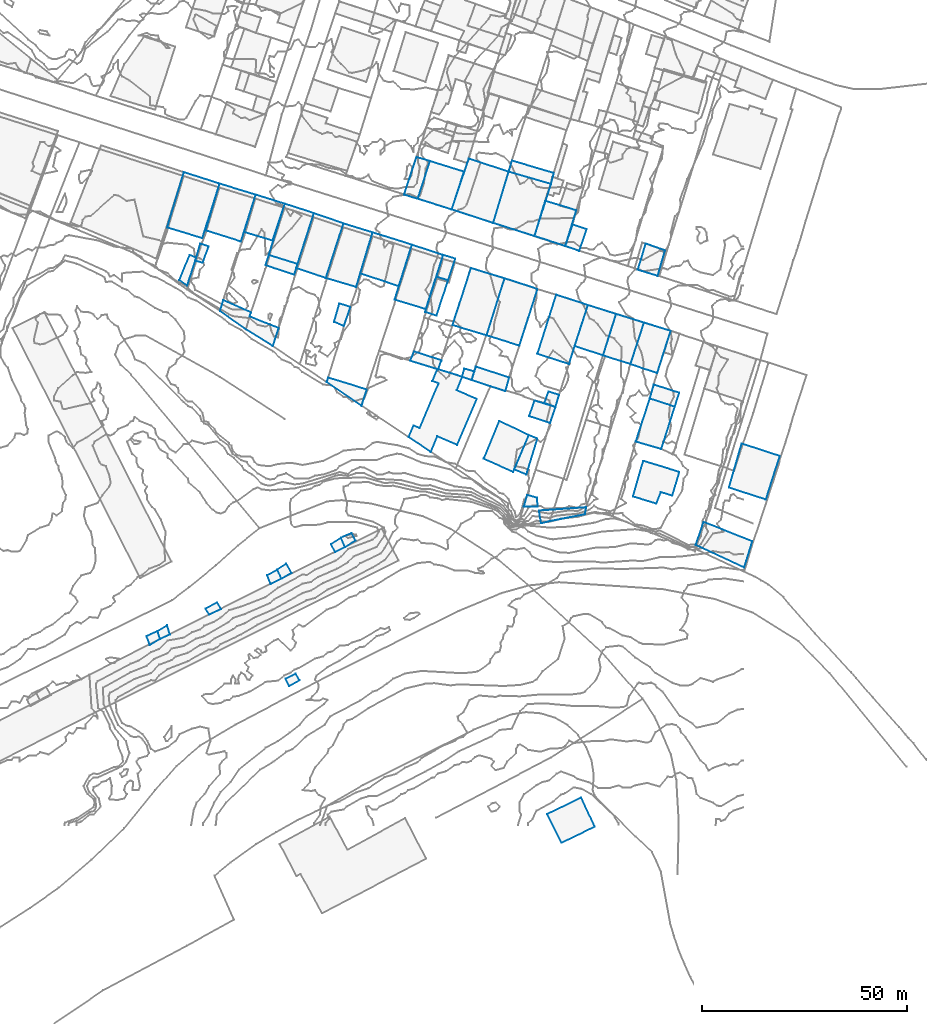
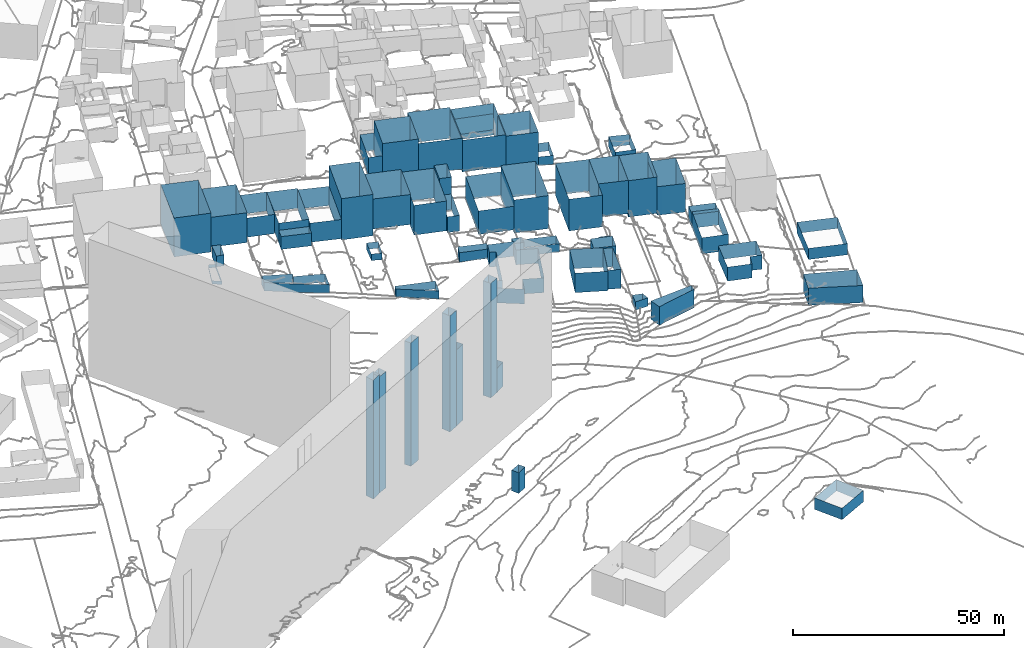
# Not in any storey, part 39 of 419: 54 walls.
"""IFC2X3 model written with IfcOpenShell, lengths in metres."""

from ifc_helpers import new_model, si_unit, frame, origin_with_axes, place, context, subcontext, project, faceted_brep, element, save


model = new_model("IFC2X3")

# Units and contexts
model_context = context("Model", 3, precision=1e-05, world=origin_with_axes())
body_context = subcontext(model_context, "Body", "Model", "MODEL_VIEW")
ifc_project = project(units=[si_unit("AREAUNIT", "SQUARE_METRE"), si_unit("LENGTHUNIT", "METRE")], contexts=[model_context])

# Walls
wall_1_placement = place(None, frame((922.9920204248, 76.0976909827, 71.5996003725), z_axis=(0.0, 0.0, 1.0), x_axis=(1.0, 0.0, 0.0)))
element("IfcWall", 1, at=wall_1_placement, Name="Mur 0", context=body_context, shape_type="Brep", body=[
    faceted_brep([(3.4, 0.0, 2.4003996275), (0.0, 0.0, 2.4003996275), (3.4, 0.0, 0.0), (0.0, 0.0, 0.0), (3.2, 2.0999999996, 2.4003996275), (3.2, 2.0999999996, 0.0), (0.7999999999, 2.7999999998, 2.4003996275), (0.7999999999, 2.7999999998, 0.0)], [[[0, 1, 2]], [[2, 1, 3]], [[4, 0, 5]], [[5, 0, 2]], [[1, 6, 3]], [[3, 6, 7]], [[6, 4, 7]], [[7, 4, 5]]]),
])
wall_2_placement = place(None, frame((845.3920204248, 143.3976909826, 76.161000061), z_axis=(0.0, 0.0, 1.0), x_axis=(1.0, 0.0, 0.0)))
element("IfcWall", 2, at=wall_2_placement, Name="Mur 0", context=body_context, shape_type="Brep", body=[
    faceted_brep([(12.2, 8.7000000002, 8.638999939), (8.6, -2.7000000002, 8.638999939), (12.2, 8.7000000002, 0.0), (8.6, -2.7000000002, 0.0), (3.3999999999, 11.4000000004, 8.638999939), (3.3999999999, 11.4000000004, 0.0), (0.0, 0.0, 8.638999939), (0.0, 0.0, 0.0)], [[[0, 1, 2]], [[2, 1, 3]], [[4, 0, 5]], [[5, 0, 2]], [[1, 6, 3]], [[3, 6, 7]], [[6, 4, 7]], [[7, 4, 5]]]),
])
wall_3_placement = place(None, frame((864.8920204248, 34.0976909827, 65.1509995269), z_axis=(0.0, 0.0, 1.0), x_axis=(1.0, 0.0, 0.0)))
element("IfcWall", 3, at=wall_3_placement, Name="Mur 0", context=body_context, shape_type="Brep", body=[
    faceted_brep([(2.5, 1.2000000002, 6.0), (3.3999999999, -0.4000000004, 6.0), (2.5, 1.2000000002, 0.0), (3.3999999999, -0.4000000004, 0.0), (0.0, 0.0, 6.0), (0.0, 0.0, 0.0), (0.8999999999, -1.7999999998, 6.0), (0.8999999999, -1.7999999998, 0.0)], [[[0, 1, 2]], [[2, 1, 3]], [[4, 0, 5]], [[5, 0, 2]], [[1, 6, 3]], [[3, 6, 7]], [[6, 4, 7]], [[7, 4, 5]]]),
])
wall_4_placement = place(None, frame((926.2920204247, 113.2976909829, 70.8120025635), z_axis=(0.0, 0.0, 1.0), x_axis=(1.0, 0.0, 0.0)))
element("IfcWall", 4, at=wall_4_placement, Name="Mur 0", context=body_context, shape_type="Brep", body=[
    faceted_brep([(4.6000000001, 14.3999999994, 9.1879974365), (12.3, 11.8999999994, 9.1879974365), (4.6000000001, 14.3999999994, 0.0), (12.3, 11.8999999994, 0.0), (0.0, 0.0, 9.1879974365), (0.0, 0.0, 0.0), (7.7000000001, -2.5, 9.1879974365), (7.7000000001, -2.5, 0.0)], [[[0, 1, 2]], [[2, 1, 3]], [[4, 0, 5]], [[5, 0, 2]], [[1, 6, 3]], [[3, 6, 7]], [[6, 4, 7]], [[7, 4, 5]]]),
])
wall_5_placement = place(None, frame((874.6920204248, 131.7976909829, 75.0439979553), z_axis=(0.0, 0.0, 1.0), x_axis=(1.0, 0.0, 0.0)))
element("IfcWall", 5, at=wall_5_placement, Name="Mur 0", context=body_context, shape_type="Brep", body=[
    faceted_brep([(7.4, -2.2000000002, 11.9560020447), (0.0, 0.0, 11.9560020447), (7.4, -2.2000000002, 0.0), (0.0, 0.0, 0.0), (11.4, 11.0999999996, 11.9560020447), (11.4, 11.0999999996, 0.0), (4.3, 13.2999999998, 11.9560020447), (4.3, 13.2999999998, 0.0)], [[[0, 1, 2]], [[2, 1, 3]], [[4, 0, 5]], [[5, 0, 2]], [[1, 6, 3]], [[3, 6, 7]], [[6, 4, 7]], [[7, 4, 5]]]),
])
wall_6_placement = place(None, frame((854.7920204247, 142.9976909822, 75.9445007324), z_axis=(0.0, 0.0, 1.0), x_axis=(1.0, 0.0, 0.0)))
element("IfcWall", 6, at=wall_6_placement, Name="Mur 0", context=body_context, shape_type="Brep", body=[
    faceted_brep([(2.8, 9.1000000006, 5.5554992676), (9.9, 6.9000000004, 5.5554992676), (2.8, 9.1000000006, 0.0), (9.9, 6.9000000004, 0.0), (0.0, 0.0, 5.5554992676), (0.0, 0.0, 0.0), (6.9, -2.0999999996, 5.5554992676), (6.9, -2.0999999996, 0.0)], [[[0, 1, 2]], [[2, 1, 3]], [[4, 0, 5]], [[5, 0, 2]], [[1, 6, 3]], [[3, 6, 7]], [[6, 4, 7]], [[7, 4, 5]]]),
])
wall_7_placement = place(None, frame((905.3920204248, 148.4976909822, 73.1300024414), z_axis=(0.0, 0.0, 1.0), x_axis=(1.0, 0.0, 0.0)))
element("IfcWall", 7, at=wall_7_placement, Name="Mur 0", context=body_context, shape_type="Brep", body=[
    faceted_brep([(0.0, 0.0, 8.9699975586), (3.7999999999, 11.3000000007, 8.9699975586), (0.0, 0.0, 0.0), (3.7999999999, 11.3000000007, 0.0), (10.1, -3.2999999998, 8.9699975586), (10.1, -3.2999999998, 0.0), (13.8999999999, 9.2000000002, 8.9699975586), (13.8999999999, 9.2000000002, 0.0), (4.2, 12.4000000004, 8.9699975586), (4.2, 12.4000000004, 0.0)], [[[0, 1, 2]], [[2, 1, 3]], [[4, 0, 5]], [[5, 0, 2]], [[6, 4, 7]], [[7, 4, 5]], [[1, 8, 3]], [[3, 8, 9]], [[8, 6, 9]], [[9, 6, 7]]]),
])
wall_8_placement = place(None, frame((878.3920204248, 68.4976909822, 69.0483990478), z_axis=(0.0, 0.0, 1.0), x_axis=(1.0, 0.0, 0.0)))
element("IfcWall", 8, at=wall_8_placement, Name="Mur 0", context=body_context, shape_type="Brep", body=[
    faceted_brep([(2.6, 1.1000000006, 6.9516009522), (3.6, -0.6999999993, 6.9516009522), (2.6, 1.1000000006, 0.0), (3.6, -0.6999999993, 0.0), (0.0, 0.0, 6.9516009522), (0.0, 0.0, 0.0), (1.0, -2.2999999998, 6.9516009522), (1.0, -2.2999999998, 0.0)], [[[0, 1, 2]], [[2, 1, 3]], [[4, 0, 5]], [[5, 0, 2]], [[1, 6, 3]], [[3, 6, 7]], [[6, 4, 7]], [[7, 4, 5]]]),
])
wall_9_placement = place(None, frame((907.8920204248, 107.6976909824, 73.5280007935), z_axis=(0.0, 0.0, 1.0), x_axis=(1.0, 0.0, 0.0)))
element("IfcWall", 9, at=wall_9_placement, Name="Mur 0", context=body_context, shape_type="Brep", body=[
    faceted_brep([(3.0, 1.2999999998, 3.4719992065), (2.3999999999, -0.7999999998, 3.4719992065), (3.0, 1.2999999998, 0.0), (2.3999999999, -0.7999999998, 0.0), (0.6, 2.0, 3.4719992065), (0.6, 2.0, 0.0), (0.0, 0.0, 3.4719992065), (0.0, 0.0, 0.0)], [[[0, 1, 2]], [[2, 1, 3]], [[4, 0, 5]], [[5, 0, 2]], [[1, 6, 3]], [[3, 6, 7]], [[6, 4, 7]], [[7, 4, 5]]]),
])
wall_10_placement = place(None, frame((833.6920204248, 45.6976909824, 69.3569992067), z_axis=(0.0, 0.0, 1.0), x_axis=(1.0, 0.0, 0.0)))
element("IfcWall", 10, at=wall_10_placement, Name="Mur 0", context=body_context, shape_type="Brep", body=[
    faceted_brep([(3.0, -0.7999999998, 33.6430007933), (0.6, -1.8999999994, 33.6430007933), (3.0, -0.7999999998, 0.0), (0.6, -1.8999999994, 0.0), (2.3, 1.4000000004, 33.6430007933), (2.3, 1.4000000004, 0.0), (0.0, 0.0, 33.6430007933), (0.0, 0.0, 0.0)], [[[0, 1, 2]], [[2, 1, 3]], [[4, 0, 5]], [[5, 0, 2]], [[1, 6, 3]], [[3, 6, 7]], [[6, 4, 7]], [[7, 4, 5]]]),
])
wall_11_placement = place(None, frame((928.6920204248, 1.0976909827, 57.486000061), z_axis=(0.0, 0.0, 1.0), x_axis=(1.0, 0.0, 0.0)))
element("IfcWall", 11, at=wall_11_placement, Name="Mur 0", context=body_context, shape_type="Brep", body=[
    faceted_brep([(8.3, 4.0, 3.313999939), (11.6, -3.1000000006, 3.313999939), (8.3, 4.0, 0.0), (11.6, -3.1000000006, 0.0), (0.0, 0.0, 3.313999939), (0.0, 0.0, 0.0), (3.5, -7.0, 3.313999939), (3.5, -7.0, 0.0)], [[[0, 1, 2]], [[2, 1, 3]], [[4, 0, 5]], [[5, 0, 2]], [[1, 6, 3]], [[3, 6, 7]], [[6, 4, 7]], [[7, 4, 5]]]),
])
wall_12_placement = place(None, frame((859.9920204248, 134.8976909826, 75.5856011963), z_axis=(0.0, 0.0, 1.0), x_axis=(1.0, 0.0, 0.0)))
element("IfcWall", 12, at=wall_12_placement, Name="Mur 0", context=body_context, shape_type="Brep", body=[
    faceted_brep([(7.7999999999, 0.2999999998, 3.7143988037), (7.5, -0.7000000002, 3.7143988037), (7.7999999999, 0.2999999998, 0.0), (7.5, -0.7000000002, 0.0), (0.7999999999, 2.5, 3.7143988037), (0.7999999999, 2.5, 0.0), (0.0, 0.0, 3.7143988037), (0.0, 0.0, 0.0), (7.0, -2.2999999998, 3.7143988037), (7.0, -2.2999999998, 0.0)], [[[0, 1, 2]], [[2, 1, 3]], [[4, 0, 5]], [[5, 0, 2]], [[6, 4, 7]], [[7, 4, 5]], [[1, 8, 3]], [[3, 8, 9]], [[8, 6, 9]], [[9, 6, 7]]]),
])
wall_13_placement = place(None, frame((910.2920204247, 106.8976909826, 73.0340019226), z_axis=(0.0, 0.0, 1.0), x_axis=(1.0, 0.0, 0.0)))
element("IfcWall", 13, at=wall_13_placement, Name="Mur 0", context=body_context, shape_type="Brep", body=[
    faceted_brep([(8.2000000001, -2.7000000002, 2.3659980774), (4.5, -1.5, 2.3659980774), (8.2000000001, -2.7000000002, 0.0), (4.5, -1.5, 0.0), (9.1000000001, 0.5999999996, 2.3659980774), (9.1000000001, 0.5999999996, 0.0), (1.0, 3.2999999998, 2.3659980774), (1.0, 3.2999999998, 0.0), (0.0, 0.0, 2.3659980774), (0.0, 0.0, 0.0)], [[[0, 1, 2]], [[2, 1, 3]], [[4, 0, 5]], [[5, 0, 2]], [[6, 4, 7]], [[7, 4, 5]], [[1, 8, 3]], [[3, 8, 9]], [[8, 6, 9]], [[9, 6, 7]]]),
])
wall_14_placement = place(None, frame((848.8920204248, 123.6976909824, 74.2920004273), z_axis=(0.0, 0.0, 1.0), x_axis=(1.0, 0.0, 0.0)))
element("IfcWall", 14, at=wall_14_placement, Name="Mur 0", context=body_context, shape_type="Brep", body=[
    faceted_brep([(12.8999999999, -8.5, 2.4079995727), (6.2999999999, -4.3999999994, 2.4079995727), (12.8999999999, -8.5, 0.0), (6.2999999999, -4.3999999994, 0.0), (14.2999999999, -4.0999999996, 2.4079995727), (14.2999999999, -4.0999999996, 0.0), (7.2, -1.2999999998, 2.4079995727), (7.2, -1.2999999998, 0.0), (7.6, -0.2999999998, 2.4079995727), (7.6, -0.2999999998, 0.0), (0.7999999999, 2.7000000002, 2.4079995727), (0.7999999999, 2.7000000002, 0.0), (0.0, 0.0, 2.4079995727), (0.0, 0.0, 0.0)], [[[0, 1, 2]], [[2, 1, 3]], [[4, 0, 5]], [[5, 0, 2]], [[6, 4, 7]], [[7, 4, 5]], [[8, 6, 9]], [[9, 6, 7]], [[10, 8, 11]], [[11, 8, 9]], [[1, 12, 3]], [[3, 12, 13]], [[12, 10, 13]], [[13, 10, 11]]]),
])
wall_15_placement = place(None, frame((838.9920204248, 131.2976909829, 75.15), z_axis=(0.0, 0.0, 1.0), x_axis=(1.0, 0.0, 0.0)))
element("IfcWall", 15, at=wall_15_placement, Name="Mur 0", context=body_context, shape_type="Brep", body=[
    faceted_brep([(4.1, 5.5, 0.95), (1.9, -1.4000000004, 0.95), (4.1, 5.5, 0.0), (1.9, -1.4000000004, 0.0), (2.5, 6.0999999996, 0.95), (2.5, 6.0999999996, 0.0), (0.0, 0.0, 0.95), (0.0, 0.0, 0.0)], [[[0, 1, 2]], [[2, 1, 3]], [[4, 0, 5]], [[5, 0, 2]], [[1, 6, 3]], [[3, 6, 7]], [[6, 4, 7]], [[7, 4, 5]]]),
])
wall_16_placement = place(None, frame((953.6920204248, 102.3976909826, 68.6312010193), z_axis=(0.0, 0.0, 1.0), x_axis=(1.0, 0.0, 0.0)))
element("IfcWall", 16, at=wall_16_placement, Name="Mur 0", context=body_context, shape_type="Brep", body=[
    faceted_brep([(0.0, 0.0, 3.9687989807), (1.0, 3.4000000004, 3.9687989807), (0.0, 0.0, 0.0), (1.0, 3.4000000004, 0.0), (6.1, -2.0, 3.9687989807), (6.1, -2.0, 0.0), (7.2000000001, 1.4000000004, 3.9687989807), (7.2000000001, 1.4000000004, 0.0)], [[[0, 1, 2]], [[2, 1, 3]], [[4, 0, 5]], [[5, 0, 2]], [[1, 6, 3]], [[3, 6, 7]], [[6, 4, 7]], [[7, 4, 5]]]),
])
wall_17_placement = place(None, frame((901.6920204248, 132.0976909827, 73.565098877), z_axis=(0.0, 0.0, 1.0), x_axis=(1.0, 0.0, 0.0)))
element("IfcWall", 17, at=wall_17_placement, Name="Mur 0", context=body_context, shape_type="Brep", body=[
    faceted_brep([(1.6, 5.2999999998, 9.634901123), (4.6, 4.3999999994, 9.634901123), (1.6, 5.2999999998, 0.0), (4.6, 4.3999999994, 0.0), (0.0, 0.0, 9.634901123), (0.0, 0.0, 0.0), (2.8, -0.9000000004, 9.634901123), (2.8, -0.9000000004, 0.0)], [[[0, 1, 2]], [[2, 1, 3]], [[4, 0, 5]], [[5, 0, 2]], [[1, 6, 3]], [[3, 6, 7]], [[6, 4, 7]], [[7, 4, 5]]]),
])
wall_18_placement = place(None, frame((874.8920204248, 106.3976909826, 73.9040000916), z_axis=(0.0, 0.0, 1.0), x_axis=(1.0, 0.0, 0.0)))
element("IfcWall", 18, at=wall_18_placement, Name="Mur 0", context=body_context, shape_type="Brep", body=[
    faceted_brep([(9.7999999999, -1.7999999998, 2.2959999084), (8.5, -5.7999999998, 2.2959999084), (9.7999999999, -1.7999999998, 0.0), (8.5, -5.7999999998, 0.0), (0.3999999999, 1.0999999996, 2.2959999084), (0.3999999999, 1.0999999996, 0.0), (0.0, 0.0, 2.2959999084), (0.0, 0.0, 0.0)], [[[0, 1, 2]], [[2, 1, 3]], [[4, 0, 5]], [[5, 0, 2]], [[1, 6, 3]], [[3, 6, 7]], [[6, 4, 7]], [[7, 4, 5]]]),
])
wall_19_placement = place(None, frame((845.3920204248, 51.1976909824, 69.2899986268), z_axis=(0.0, 0.0, 1.0), x_axis=(1.0, 0.0, 0.0)))
element("IfcWall", 19, at=wall_19_placement, Name="Mur 0", context=body_context, shape_type="Brep", body=[
    faceted_brep([(2.7999999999, 1.5, 35.7100013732), (3.7999999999, -0.0999999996, 35.7100013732), (2.7999999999, 1.5, 0.0), (3.7999999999, -0.0999999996, 0.0), (0.0, 0.0, 35.7100013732), (0.0, 0.0, 0.0), (0.8999999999, -1.5, 35.7100013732), (0.8999999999, -1.5, 0.0)], [[[0, 1, 2]], [[2, 1, 3]], [[4, 0, 5]], [[5, 0, 2]], [[1, 6, 3]], [[3, 6, 7]], [[6, 4, 7]], [[7, 4, 5]]]),
])
wall_20_placement = place(None, frame((883.0920204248, 132.8976909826, 74.5310005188), z_axis=(0.0, 0.0, 1.0), x_axis=(1.0, 0.0, 0.0)))
element("IfcWall", 20, at=wall_20_placement, Name="Mur 0", context=body_context, shape_type="Brep", body=[
    faceted_brep([(3.0, 10.0, 8.6689994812), (12.6, 7.0, 8.6689994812), (3.0, 10.0, 0.0), (12.6, 7.0, 0.0), (0.0, 0.0, 8.6689994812), (0.0, 0.0, 0.0), (9.4, -3.0999999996, 8.6689994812), (9.4, -3.0999999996, 0.0)], [[[0, 1, 2]], [[2, 1, 3]], [[4, 0, 5]], [[5, 0, 2]], [[1, 6, 3]], [[3, 6, 7]], [[6, 4, 7]], [[7, 4, 5]]]),
])
wall_21_placement = place(None, frame((925.5920204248, 141.9976909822, 71.6450004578), z_axis=(0.0, 0.0, 1.0), x_axis=(1.0, 0.0, 0.0)))
element("IfcWall", 21, at=wall_21_placement, Name="Mur 0", context=body_context, shape_type="Brep", body=[
    faceted_brep([(7.5, -2.3999999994, 9.4549995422), (0.0, 0.0, 9.4549995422), (7.5, -2.3999999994, 0.0), (0.0, 0.0, 0.0), (10.2, 6.3000000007, 9.4549995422), (10.2, 6.3000000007, 0.0), (2.6, 8.6000000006, 9.4549995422), (2.6, 8.6000000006, 0.0)], [[[0, 1, 2]], [[2, 1, 3]], [[4, 0, 5]], [[5, 0, 2]], [[1, 6, 3]], [[3, 6, 7]], [[6, 4, 7]], [[7, 4, 5]]]),
])
wall_22_placement = place(None, frame((913.1920204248, 87.6976909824, 73.0757994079), z_axis=(0.0, 0.0, 1.0), x_axis=(1.0, 0.0, 0.0)))
element("IfcWall", 22, at=wall_22_placement, Name="Mur 0", context=body_context, shape_type="Brep", body=[
    faceted_brep([(3.8, 9.2000000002, 5.6242005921), (11.0, 5.7999999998, 5.6242005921), (3.8, 9.2000000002, 0.0), (11.0, 5.7999999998, 0.0), (0.0, 0.0, 5.6242005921), (0.0, 0.0, 0.0), (7.2000000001, -3.2000000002, 5.6242005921), (7.2000000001, -3.2000000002, 0.0)], [[[0, 1, 2]], [[2, 1, 3]], [[4, 0, 5]], [[5, 0, 2]], [[1, 6, 3]], [[3, 6, 7]], [[6, 4, 7]], [[7, 4, 5]]]),
])
wall_23_placement = place(None, frame((876.6920204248, 121.0976909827, 74.9028998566), z_axis=(0.0, 0.0, 1.0), x_axis=(1.0, 0.0, 0.0)))
element("IfcWall", 23, at=wall_23_placement, Name="Mur 0", context=body_context, shape_type="Brep", body=[
    faceted_brep([(4.0, 3.5999999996, 1.8971001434), (2.4, -1.0, 1.8971001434), (4.0, 3.5999999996, 0.0), (2.4, -1.0, 0.0), (1.3, 4.5, 1.8971001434), (1.3, 4.5, 0.0), (0.0, 0.0, 1.8971001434), (0.0, 0.0, 0.0)], [[[0, 1, 2]], [[2, 1, 3]], [[4, 0, 5]], [[5, 0, 2]], [[1, 6, 3]], [[3, 6, 7]], [[6, 4, 7]], [[7, 4, 5]]]),
])
wall_24_placement = place(None, frame((862.8920204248, 60.6976909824, 69.4219978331), z_axis=(0.0, 0.0, 1.0), x_axis=(1.0, 0.0, 0.0)))
element("IfcWall", 24, at=wall_24_placement, Name="Mur 0", context=body_context, shape_type="Brep", body=[
    faceted_brep([(3.5, -0.7999999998, 22.0780021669), (1.0, -2.2000000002, 22.0780021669), (3.5, -0.7999999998, 0.0), (1.0, -2.2000000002, 0.0), (2.2, 1.5, 22.0780021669), (2.2, 1.5, 0.0), (0.0, 0.0, 22.0780021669), (0.0, 0.0, 0.0)], [[[0, 1, 2]], [[2, 1, 3]], [[4, 0, 5]], [[5, 0, 2]], [[1, 6, 3]], [[3, 6, 7]], [[6, 4, 7]], [[7, 4, 5]]]),
])
wall_25_placement = place(None, frame((830.9920204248, 44.4976909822, 69.3569992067), z_axis=(0.0, 0.0, 1.0), x_axis=(1.0, 0.0, 0.0)))
element("IfcWall", 25, at=wall_25_placement, Name="Mur 0", context=body_context, shape_type="Brep", body=[
    faceted_brep([(2.7, 1.2000000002, 34.3430007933), (3.2999999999, -0.6999999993, 34.3430007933), (2.7, 1.2000000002, 0.0), (3.2999999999, -0.6999999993, 0.0), (0.0, 0.0, 34.3430007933), (0.0, 0.0, 0.0), (0.7999999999, -2.1999999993, 34.3430007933), (0.7999999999, -2.1999999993, 0.0)], [[[0, 1, 2]], [[2, 1, 3]], [[4, 0, 5]], [[5, 0, 2]], [[1, 6, 3]], [[3, 6, 7]], [[6, 4, 7]], [[7, 4, 5]]]),
])
wall_26_placement = place(None, frame((927.9920204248, 101.2976909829, 72.4149993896), z_axis=(0.0, 0.0, 1.0), x_axis=(1.0, 0.0, 0.0)))
element("IfcWall", 26, at=wall_26_placement, Name="Mur 0", context=body_context, shape_type="Brep", body=[
    faceted_brep([(1.0, 2.7999999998, 1.2850006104), (3.6, 2.0, 1.2850006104), (1.0, 2.7999999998, 0.0), (3.6, 2.0, 0.0), (0.0, 0.0, 1.2850006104), (0.0, 0.0, 0.0), (2.7, -1.0, 1.2850006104), (2.7, -1.0, 0.0)], [[[0, 1, 2]], [[2, 1, 3]], [[4, 0, 5]], [[5, 0, 2]], [[1, 6, 3]], [[3, 6, 7]], [[6, 4, 7]], [[7, 4, 5]]]),
])
wall_27_placement = place(None, frame((875.9920204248, 66.8976909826, 69.0483990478), z_axis=(0.0, 0.0, 1.0), x_axis=(1.0, 0.0, 0.0)))
element("IfcWall", 27, at=wall_27_placement, Name="Mur 0", context=body_context, shape_type="Brep", body=[
    faceted_brep([(2.4, 1.5999999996, 33.1516009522), (3.4, -0.7000000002, 33.1516009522), (2.4, 1.5999999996, 0.0), (3.4, -0.7000000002, 0.0), (0.0, 0.0, 33.1516009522), (0.0, 0.0, 0.0), (1.0, -1.9000000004, 33.1516009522), (1.0, -1.9000000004, 0.0)], [[[0, 1, 2]], [[2, 1, 3]], [[4, 0, 5]], [[5, 0, 2]], [[1, 6, 3]], [[3, 6, 7]], [[6, 4, 7]], [[7, 4, 5]]]),
])
wall_28_placement = place(None, frame((842.8920204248, 135.9976909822, 75.8583978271), z_axis=(0.0, 0.0, 1.0), x_axis=(1.0, 0.0, 0.0)))
element("IfcWall", 28, at=wall_28_placement, Name="Mur 0", context=body_context, shape_type="Brep", body=[
    faceted_brep([(0.0, 0.0, 3.1416021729), (0.2, 0.8000000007, 3.1416021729), (0.0, 0.0, 0.0), (0.2, 0.8000000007, 0.0), (1.7999999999, -0.5, 3.1416021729), (1.7999999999, -0.5, 0.0), (3.2, 3.5, 3.1416021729), (3.2, 3.5, 0.0), (1.2, 4.2000000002, 3.1416021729), (1.2, 4.2000000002, 0.0)], [[[0, 1, 2]], [[2, 1, 3]], [[4, 0, 5]], [[5, 0, 2]], [[6, 4, 7]], [[7, 4, 5]], [[1, 8, 3]], [[3, 8, 9]], [[8, 6, 9]], [[9, 6, 7]]]),
])
wall_29_placement = place(None, frame((924.2920204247, 98.0976909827, 72.6780975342), z_axis=(0.0, 0.0, 1.0), x_axis=(1.0, 0.0, 0.0)))
element("IfcWall", 29, at=wall_29_placement, Name="Mur 0", context=body_context, shape_type="Brep", body=[
    faceted_brep([(1.3, 3.7999999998, 3.0219024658), (6.4, 2.2000000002, 3.0219024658), (1.3, 3.7999999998, 0.0), (6.4, 2.2000000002, 0.0), (0.0, 0.0, 3.0219024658), (0.0, 0.0, 0.0), (5.1000000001, -1.7000000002, 3.0219024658), (5.1000000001, -1.7000000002, 0.0)], [[[0, 1, 2]], [[2, 1, 3]], [[4, 0, 5]], [[5, 0, 2]], [[1, 6, 3]], [[3, 6, 7]], [[6, 4, 7]], [[7, 4, 5]]]),
])
wall_30_placement = place(None, frame((972.9920204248, 80.6976909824, 65.9680023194), z_axis=(0.0, 0.0, 1.0), x_axis=(1.0, 0.0, 0.0)))
element("IfcWall", 30, at=wall_30_placement, Name="Mur 0", context=body_context, shape_type="Brep", body=[
    faceted_brep([(12.4, 7.7000000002, 3.2319976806), (9.0, -2.8999999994, 3.2319976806), (12.4, 7.7000000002, 0.0), (9.0, -2.8999999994, 0.0), (3.1, 10.7000000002, 3.2319976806), (3.1, 10.7000000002, 0.0), (0.0, 0.0, 3.2319976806), (0.0, 0.0, 0.0)], [[[0, 1, 2]], [[2, 1, 3]], [[4, 0, 5]], [[5, 0, 2]], [[1, 6, 3]], [[3, 6, 7]], [[6, 4, 7]], [[7, 4, 5]]]),
])
wall_31_placement = place(None, frame((895.2920204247, 111.5976909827, 73.6999996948), z_axis=(0.0, 0.0, 1.0), x_axis=(1.0, 0.0, 0.0)))
element("IfcWall", 31, at=wall_31_placement, Name="Mur 0", context=body_context, shape_type="Brep", body=[
    faceted_brep([(7.6000000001, 0.0999999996, 2.7000003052), (6.8, -2.1000000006, 2.7000003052), (7.6000000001, 0.0999999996, 0.0), (6.8, -2.1000000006, 0.0), (0.9, 2.2999999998, 2.7000003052), (0.9, 2.2999999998, 0.0), (0.0, 0.0, 2.7000003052), (0.0, 0.0, 0.0)], [[[0, 1, 2]], [[2, 1, 3]], [[4, 0, 5]], [[5, 0, 2]], [[1, 6, 3]], [[3, 6, 7]], [[6, 4, 7]], [[7, 4, 5]]]),
])
wall_32_placement = place(None, frame((893.7920204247, 152.0976909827, 74.7480007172), z_axis=(0.0, 0.0, 1.0), x_axis=(1.0, 0.0, 0.0)))
element("IfcWall", 32, at=wall_32_placement, Name="Mur 0", context=body_context, shape_type="Brep", body=[
    faceted_brep([(0.0, 0.0, 5.1519992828), (3.0, 9.2000000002, 5.1519992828), (0.0, 0.0, 0.0), (3.0, 9.2000000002, 0.0), (3.3, -1.0, 5.1519992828), (3.3, -1.0, 0.0), (6.3, 8.2000000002, 5.1519992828), (6.3, 8.2000000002, 0.0)], [[[0, 1, 2]], [[2, 1, 3]], [[4, 0, 5]], [[5, 0, 2]], [[1, 6, 3]], [[3, 6, 7]], [[6, 4, 7]], [[7, 4, 5]]]),
])
wall_33_placement = place(None, frame((964.8920204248, 66.6976909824, 64.0479988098), z_axis=(0.0, 0.0, 1.0), x_axis=(1.0, 0.0, 0.0)))
element("IfcWall", 33, at=wall_33_placement, Name="Mur 0", context=body_context, shape_type="Brep", body=[
    faceted_brep([(13.7999999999, 0.9000000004, 4.9520011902), (12.2999999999, -3.8999999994, 4.9520011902), (13.7999999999, 0.9000000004, 0.0), (12.2999999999, -3.8999999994, 0.0), (1.8999999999, 5.6000000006, 4.9520011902), (1.8999999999, 5.6000000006, 0.0), (0.0, 0.0, 4.9520011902), (0.0, 0.0, 0.0), (11.7999999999, -5.5, 4.9520011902), (11.7999999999, -5.5, 0.0)], [[[0, 1, 2]], [[2, 1, 3]], [[4, 0, 5]], [[5, 0, 2]], [[6, 4, 7]], [[7, 4, 5]], [[1, 8, 3]], [[3, 8, 9]], [[8, 6, 9]], [[9, 6, 7]]]),
])
wall_34_placement = place(None, frame((949.5920204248, 78.4976909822, 69.2433996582), z_axis=(0.0, 0.0, 1.0), x_axis=(1.0, 0.0, 0.0)))
element("IfcWall", 34, at=wall_34_placement, Name="Mur 0", context=body_context, shape_type="Brep", body=[
    faceted_brep([(0.0, 0.0, 4.0566003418), (2.5, 8.7000000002, 4.0566003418), (0.0, 0.0, 0.0), (2.5, 8.7000000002, 0.0), (5.7, -1.6999999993, 4.0566003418), (5.7, -1.6999999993, 0.0), (6.8, 1.1000000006, 4.0566003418), (6.8, 1.1000000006, 0.0), (9.6, 0.2000000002, 4.0566003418), (9.6, 0.2000000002, 0.0), (11.3, 6.0, 4.0566003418), (11.3, 6.0, 0.0)], [[[0, 1, 2]], [[2, 1, 3]], [[4, 0, 5]], [[5, 0, 2]], [[6, 4, 7]], [[7, 4, 5]], [[8, 6, 9]], [[9, 6, 7]], [[1, 10, 3]], [[3, 10, 11]], [[10, 8, 11]], [[11, 8, 9]]]),
])
wall_35_placement = place(None, frame((948.9920204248, 110.7976909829, 68.9369995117), z_axis=(0.0, 0.0, 1.0), x_axis=(1.0, 0.0, 0.0)))
element("IfcWall", 35, at=wall_35_placement, Name="Mur 0", context=body_context, shape_type="Brep", body=[
    faceted_brep([(6.5, -2.2000000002, 8.2630004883), (1.1, -0.4000000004, 8.2630004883), (6.5, -2.2000000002, 0.0), (1.1, -0.4000000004, 0.0), (9.7999999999, 8.0999999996, 8.2630004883), (9.7999999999, 8.0999999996, 0.0), (3.2999999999, 10.0999999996, 8.2630004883), (3.2999999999, 10.0999999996, 0.0), (0.0, 0.0, 8.2630004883), (0.0, 0.0, 0.0)], [[[0, 1, 2]], [[2, 1, 3]], [[4, 0, 5]], [[5, 0, 2]], [[6, 4, 7]], [[7, 4, 5]], [[1, 8, 3]], [[3, 8, 9]], [[8, 6, 9]], [[9, 6, 7]]]),
])
wall_36_placement = place(None, frame((950.2920204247, 91.8976909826, 68.7280014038), z_axis=(0.0, 0.0, 1.0), x_axis=(1.0, 0.0, 0.0)))
element("IfcWall", 36, at=wall_36_placement, Name="Mur 0", context=body_context, shape_type="Brep", body=[
    faceted_brep([(9.5, 8.5, 4.6719985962), (6.2000000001, -1.7999999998, 4.6719985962), (9.5, 8.5, 0.0), (6.2000000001, -1.7999999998, 0.0), (3.4, 10.5, 4.6719985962), (3.4, 10.5, 0.0), (0.0, 0.0, 4.6719985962), (0.0, 0.0, 0.0)], [[[0, 1, 2]], [[2, 1, 3]], [[4, 0, 5]], [[5, 0, 2]], [[1, 6, 3]], [[3, 6, 7]], [[6, 4, 7]], [[7, 4, 5]]]),
])
wall_37_placement = place(None, frame((950.7920204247, 133.7976909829, 69.5340026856), z_axis=(0.0, 0.0, 1.0), x_axis=(1.0, 0.0, 0.0)))
element("IfcWall", 37, at=wall_37_placement, Name="Mur 0", context=body_context, shape_type="Brep", body=[
    faceted_brep([(4.8, -1.5, 3.0659973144), (0.0, 0.0, 3.0659973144), (4.8, -1.5, 0.0), (0.0, 0.0, 0.0), (6.6000000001, 4.6999999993, 3.0659973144), (6.6000000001, 4.6999999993, 0.0), (1.9, 6.3999999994, 3.0659973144), (1.9, 6.3999999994, 0.0)], [[[0, 1, 2]], [[2, 1, 3]], [[4, 0, 5]], [[5, 0, 2]], [[1, 6, 3]], [[3, 6, 7]], [[6, 4, 7]], [[7, 4, 5]]]),
])
wall_38_placement = place(None, frame((919.2920204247, 157.6976909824, 73.8568984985), z_axis=(0.0, 0.0, 1.0), x_axis=(1.0, 0.0, 0.0)))
element("IfcWall", 38, at=wall_38_placement, Name="Mur 0", context=body_context, shape_type="Brep", body=[
    faceted_brep([(10.3, -3.0, 4.6431015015), (0.0, 0.0, 4.6431015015), (10.3, -3.0, 0.0), (0.0, 0.0, 0.0), (11.0, -0.2999999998, 4.6431015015), (11.0, -0.2999999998, 0.0), (0.8, 2.7000000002, 4.6431015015), (0.8, 2.7000000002, 0.0)], [[[0, 1, 2]], [[2, 1, 3]], [[4, 0, 5]], [[5, 0, 2]], [[1, 6, 3]], [[3, 6, 7]], [[6, 4, 7]], [[7, 4, 5]]]),
])
wall_39_placement = place(None, frame((860.3920204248, 59.2976909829, 69.4219978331), z_axis=(0.0, 0.0, 1.0), x_axis=(1.0, 0.0, 0.0)))
element("IfcWall", 39, at=wall_39_placement, Name="Mur 0", context=body_context, shape_type="Brep", body=[
    faceted_brep([(2.5, 1.3999999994, 33.5780021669), (3.5, -0.8000000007, 33.5780021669), (2.5, 1.3999999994, 0.0), (3.5, -0.8000000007, 0.0), (0.0, 0.0, 33.5780021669), (0.0, 0.0, 0.0), (0.8999999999, -2.1000000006, 33.5780021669), (0.8999999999, -2.1000000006, 0.0)], [[[0, 1, 2]], [[2, 1, 3]], [[4, 0, 5]], [[5, 0, 2]], [[1, 6, 3]], [[3, 6, 7]], [[6, 4, 7]], [[7, 4, 5]]]),
])
wall_40_placement = place(None, frame((920.5920204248, 85.0976909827, 73.0299987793), z_axis=(0.0, 0.0, 1.0), x_axis=(1.0, 0.0, 0.0)))
element("IfcWall", 40, at=wall_40_placement, Name="Mur 0", context=body_context, shape_type="Brep", body=[
    faceted_brep([(3.6, 8.3999999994, 5.4700012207), (5.7, 7.5, 5.4700012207), (3.6, 8.3999999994, 0.0), (5.7, 7.5, 0.0), (0.0, 0.0, 5.4700012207), (0.0, 0.0, 0.0), (3.0, -1.2000000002, 5.4700012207), (3.0, -1.2000000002, 0.0)], [[[0, 1, 2]], [[2, 1, 3]], [[4, 0, 5]], [[5, 0, 2]], [[1, 6, 3]], [[3, 6, 7]], [[6, 4, 7]], [[7, 4, 5]]]),
])
wall_41_placement = place(None, frame((898.8920204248, 123.4976909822, 73.7474008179), z_axis=(0.0, 0.0, 1.0), x_axis=(1.0, 0.0, 0.0)))
element("IfcWall", 41, at=wall_41_placement, Name="Mur 0", context=body_context, shape_type="Brep", body=[
    faceted_brep([(2.7999999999, -0.8999999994, 4.5525991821), (0.0, 0.0, 4.5525991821), (2.7999999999, -0.8999999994, 0.0), (0.0, 0.0, 0.0), (5.6, 7.7000000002, 4.5525991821), (5.6, 7.7000000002, 0.0), (2.7999999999, 8.6000000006, 4.5525991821), (2.7999999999, 8.6000000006, 0.0)], [[[0, 1, 2]], [[2, 1, 3]], [[4, 0, 5]], [[5, 0, 2]], [[1, 6, 3]], [[3, 6, 7]], [[6, 4, 7]], [[7, 4, 5]]]),
])
wall_42_placement = place(None, frame((913.8920204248, 117.7976909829, 71.851099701), z_axis=(0.0, 0.0, 1.0), x_axis=(1.0, 0.0, 0.0)))
element("IfcWall", 42, at=wall_42_placement, Name="Mur 0", context=body_context, shape_type="Brep", body=[
    faceted_brep([(4.3999999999, 13.8999999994, 9.548900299), (12.3999999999, 11.2999999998, 9.548900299), (4.3999999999, 13.8999999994, 0.0), (12.3999999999, 11.2999999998, 0.0), (0.0, 0.0, 9.548900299), (0.0, 0.0, 0.0), (8.0, -2.5, 9.548900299), (8.0, -2.5, 0.0)], [[[0, 1, 2]], [[2, 1, 3]], [[4, 0, 5]], [[5, 0, 2]], [[1, 6, 3]], [[3, 6, 7]], [[6, 4, 7]], [[7, 4, 5]]]),
])
wall_43_placement = place(None, frame((905.5920204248, 120.2976909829, 72.7897001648), z_axis=(0.0, 0.0, 1.0), x_axis=(1.0, 0.0, 0.0)))
element("IfcWall", 43, at=wall_43_placement, Name="Mur 0", context=body_context, shape_type="Brep", body=[
    faceted_brep([(4.5, 13.8999999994, 6.8102998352), (12.7, 11.3999999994, 6.8102998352), (4.5, 13.8999999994, 0.0), (12.7, 11.3999999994, 0.0), (0.0, 0.0, 6.8102998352), (0.0, 0.0, 0.0), (8.3, -2.5, 6.8102998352), (8.3, -2.5, 0.0)], [[[0, 1, 2]], [[2, 1, 3]], [[4, 0, 5]], [[5, 0, 2]], [[1, 6, 3]], [[3, 6, 7]], [[6, 4, 7]], [[7, 4, 5]]]),
])
wall_44_placement = place(None, frame((894.8920204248, 92.9976909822, 73.3090026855), z_axis=(0.0, 0.0, 1.0), x_axis=(1.0, 0.0, 0.0)))
element("IfcWall", 44, at=wall_44_placement, Name="Mur 0", context=body_context, shape_type="Brep", body=[
    faceted_brep([(5.7999999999, 13.7000000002, 4.2909973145), (7.0, 16.6000000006, 4.2909973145), (5.7999999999, 13.7000000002, 0.0), (7.0, 16.6000000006, 0.0), (7.2999999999, 13.1000000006, 4.2909973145), (7.2999999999, 13.1000000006, 0.0), (2.7, 2.2000000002, 4.2909973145), (2.7, 2.2000000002, 0.0), (1.2, 2.8000000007, 4.2909973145), (1.2, 2.8000000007, 0.0), (0.0, 0.0, 4.2909973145), (0.0, 0.0, 0.0), (5.3999999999, -3.5999999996, 4.2909973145), (5.3999999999, -3.5999999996, 0.0), (7.0, 0.2000000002, 4.2909973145), (7.0, 0.2000000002, 0.0), (11.7999999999, -1.8999999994, 4.2909973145), (11.7999999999, -1.8999999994, 0.0), (16.6, 9.3000000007, 4.2909973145), (16.6, 9.3000000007, 0.0), (11.7, 11.4000000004, 4.2909973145), (11.7, 11.4000000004, 0.0), (13.1, 14.7000000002, 4.2909973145), (13.1, 14.7000000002, 0.0)], [[[0, 1, 2]], [[2, 1, 3]], [[4, 0, 5]], [[5, 0, 2]], [[6, 4, 7]], [[7, 4, 5]], [[8, 6, 9]], [[9, 6, 7]], [[10, 8, 11]], [[11, 8, 9]], [[12, 10, 13]], [[13, 10, 11]], [[14, 12, 15]], [[15, 12, 13]], [[16, 14, 17]], [[17, 14, 15]], [[18, 16, 19]], [[19, 16, 17]], [[20, 18, 21]], [[21, 18, 19]], [[1, 22, 3]], [[3, 22, 23]], [[22, 20, 23]], [[23, 20, 21]]]),
])
wall_45_placement = place(None, frame((891.4920204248, 126.4976909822, 73.7870010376), z_axis=(0.0, 0.0, 1.0), x_axis=(1.0, 0.0, 0.0)))
element("IfcWall", 45, at=wall_45_placement, Name="Mur 0", context=body_context, shape_type="Brep", body=[
    faceted_brep([(7.6, -2.2999999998, 8.6129989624), (0.0, 0.0, 8.6129989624), (7.6, -2.2999999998, 0.0), (0.0, 0.0, 0.0), (11.7999999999, 10.9000000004, 8.6129989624), (11.7999999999, 10.9000000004, 0.0), (4.2, 13.4000000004, 8.6129989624), (4.2, 13.4000000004, 0.0)], [[[0, 1, 2]], [[2, 1, 3]], [[4, 0, 5]], [[5, 0, 2]], [[1, 6, 3]], [[3, 6, 7]], [[6, 4, 7]], [[7, 4, 5]]]),
])
wall_46_placement = place(None, frame((867.4920204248, 134.1976909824, 75.4461991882), z_axis=(0.0, 0.0, 1.0), x_axis=(1.0, 0.0, 0.0)))
element("IfcWall", 46, at=wall_46_placement, Name="Mur 0", context=body_context, shape_type="Brep", body=[
    faceted_brep([(11.5, 10.9000000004, 5.5538008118), (7.2, -2.3999999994, 5.5538008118), (11.5, 10.9000000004, 0.0), (7.2, -2.3999999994, 0.0), (4.2999999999, 13.4000000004, 5.5538008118), (4.2999999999, 13.4000000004, 0.0), (0.0, 0.0, 5.5538008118), (0.0, 0.0, 0.0)], [[[0, 1, 2]], [[2, 1, 3]], [[4, 0, 5]], [[5, 0, 2]], [[1, 6, 3]], [[3, 6, 7]], [[6, 4, 7]], [[7, 4, 5]]]),
])
wall_47_placement = place(None, frame((860.7920204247, 137.3976909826, 75.6688024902), z_axis=(0.0, 0.0, 1.0), x_axis=(1.0, 0.0, 0.0)))
element("IfcWall", 47, at=wall_47_placement, Name="Mur 0", context=body_context, shape_type="Brep", body=[
    faceted_brep([(3.9, 12.5, 5.7311975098), (11.0, 10.2000000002, 5.7311975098), (3.9, 12.5, 0.0), (11.0, 10.2000000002, 0.0), (0.0, 0.0, 5.7311975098), (0.0, 0.0, 0.0), (7.0, -2.2000000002, 5.7311975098), (7.0, -2.2000000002, 0.0)], [[[0, 1, 2]], [[2, 1, 3]], [[4, 0, 5]], [[5, 0, 2]], [[1, 6, 3]], [[3, 6, 7]], [[6, 4, 7]], [[7, 4, 5]]]),
])
wall_48_placement = place(None, frame((835.9920204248, 144.0976909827, 76.2324005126), z_axis=(0.0, 0.0, 1.0), x_axis=(1.0, 0.0, 0.0)))
element("IfcWall", 48, at=wall_48_placement, Name="Mur 0", context=body_context, shape_type="Brep", body=[
    faceted_brep([(8.6, -2.6000000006, 11.2675994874), (0.0, 0.0, 11.2675994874), (8.6, -2.6000000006, 0.0), (0.0, 0.0, 0.0), (12.7999999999, 10.7000000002, 11.2675994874), (12.7999999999, 10.7000000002, 0.0), (4.1, 13.5, 11.2675994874), (4.1, 13.5, 0.0)], [[[0, 1, 2]], [[2, 1, 3]], [[4, 0, 5]], [[5, 0, 2]], [[1, 6, 3]], [[3, 6, 7]], [[6, 4, 7]], [[7, 4, 5]]]),
])
wall_49_placement = place(None, frame((915.4920204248, 145.1976909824, 72.3500030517), z_axis=(0.0, 0.0, 1.0), x_axis=(1.0, 0.0, 0.0)))
element("IfcWall", 49, at=wall_49_placement, Name="Mur 0", context=body_context, shape_type="Brep", body=[
    faceted_brep([(0.0, 0.0, 9.1499969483), (3.7999999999, 12.5, 9.1499969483), (0.0, 0.0, 0.0), (3.7999999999, 12.5, 0.0), (10.1, -3.2000000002, 9.1499969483), (10.1, -3.2000000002, 0.0), (14.1, 9.5, 9.1499969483), (14.1, 9.5, 0.0)], [[[0, 1, 2]], [[2, 1, 3]], [[4, 0, 5]], [[5, 0, 2]], [[1, 6, 3]], [[3, 6, 7]], [[6, 4, 7]], [[7, 4, 5]]]),
])
wall_50_placement = place(None, frame((897.0920204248, 151.0976909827, 74.034402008), z_axis=(0.0, 0.0, 1.0), x_axis=(1.0, 0.0, 0.0)))
element("IfcWall", 50, at=wall_50_placement, Name="Mur 0", context=body_context, shape_type="Brep", body=[
    faceted_brep([(0.0, 0.0, 9.365597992), (3.0, 9.2000000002, 9.365597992), (0.0, 0.0, 0.0), (3.0, 9.2000000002, 0.0), (8.3, -2.6000000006, 9.365597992), (8.3, -2.6000000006, 0.0), (11.3, 6.5999999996, 9.365597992), (11.3, 6.5999999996, 0.0)], [[[0, 1, 2]], [[2, 1, 3]], [[4, 0, 5]], [[5, 0, 2]], [[1, 6, 3]], [[3, 6, 7]], [[6, 4, 7]], [[7, 4, 5]]]),
])
wall_51_placement = place(None, frame((933.0920204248, 139.5976909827, 71.3590003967), z_axis=(0.0, 0.0, 1.0), x_axis=(1.0, 0.0, 0.0)))
element("IfcWall", 51, at=wall_51_placement, Name="Mur 0", context=body_context, shape_type="Brep", body=[
    faceted_brep([(3.4, -1.2000000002, 2.5409996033), (0.0, 0.0, 2.5409996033), (3.4, -1.2000000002, 0.0), (0.0, 0.0, 0.0), (5.2, 4.0999999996, 2.5409996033), (5.2, 4.0999999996, 0.0), (1.8, 5.2000000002, 2.5409996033), (1.8, 5.2000000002, 0.0)], [[[0, 1, 2]], [[2, 1, 3]], [[4, 0, 5]], [[5, 0, 2]], [[1, 6, 3]], [[3, 6, 7]], [[6, 4, 7]], [[7, 4, 5]]]),
])
wall_52_placement = place(None, frame((942.2920204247, 112.8976909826, 69.4924980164), z_axis=(0.0, 0.0, 1.0), x_axis=(1.0, 0.0, 0.0)))
element("IfcWall", 52, at=wall_52_placement, Name="Mur 0", context=body_context, shape_type="Brep", body=[
    faceted_brep([(10.0, 8.0, 10.5075019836), (6.7000000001, -2.0999999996, 10.5075019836), (10.0, 8.0, 0.0), (6.7000000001, -2.0999999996, 0.0), (3.2000000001, 10.0999999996, 10.5075019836), (3.2000000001, 10.0999999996, 0.0), (0.0, 0.0, 10.5075019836), (0.0, 0.0, 0.0)], [[[0, 1, 2]], [[2, 1, 3]], [[4, 0, 5]], [[5, 0, 2]], [[1, 6, 3]], [[3, 6, 7]], [[6, 4, 7]], [[7, 4, 5]]]),
])
wall_53_placement = place(None, frame((935.3920204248, 115.1976909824, 70.4820007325), z_axis=(0.0, 0.0, 1.0), x_axis=(1.0, 0.0, 0.0)))
element("IfcWall", 53, at=wall_53_placement, Name="Mur 0", context=body_context, shape_type="Brep", body=[
    faceted_brep([(3.2, 10.0, 9.6179992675), (10.1, 7.7999999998, 9.6179992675), (3.2, 10.0, 0.0), (10.1, 7.7999999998, 0.0), (0.0, 0.0, 9.6179992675), (0.0, 0.0, 0.0), (6.8999999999, -2.2999999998, 9.6179992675), (6.8999999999, -2.2999999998, 0.0)], [[[0, 1, 2]], [[2, 1, 3]], [[4, 0, 5]], [[5, 0, 2]], [[1, 6, 3]], [[3, 6, 7]], [[6, 4, 7]], [[7, 4, 5]]]),
])
wall_54_placement = place(None, frame((926.6920204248, 75.0976909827, 68.2544003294), z_axis=(0.0, 0.0, 1.0), x_axis=(1.0, 0.0, 0.0)))
element("IfcWall", 54, at=wall_54_placement, Name="Mur 0", context=body_context, shape_type="Brep", body=[
    faceted_brep([(11.2000000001, -0.9000000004, 5.3455996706), (2.6, -2.6000000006, 5.3455996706), (11.2000000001, -0.9000000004, 0.0), (2.6, -2.6000000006, 0.0), (11.5, 0.7999999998, 5.3455996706), (11.5, 0.7999999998, 0.0), (0.0, 0.0, 5.3455996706), (0.0, 0.0, 0.0), (0.5, -3.1000000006, 5.3455996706), (0.5, -3.1000000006, 0.0)], [[[0, 1, 2]], [[2, 1, 3]], [[4, 0, 5]], [[5, 0, 2]], [[6, 4, 7]], [[7, 4, 5]], [[1, 8, 3]], [[3, 8, 9]], [[8, 6, 9]], [[9, 6, 7]]]),
])

save(model, "model.ifc")
